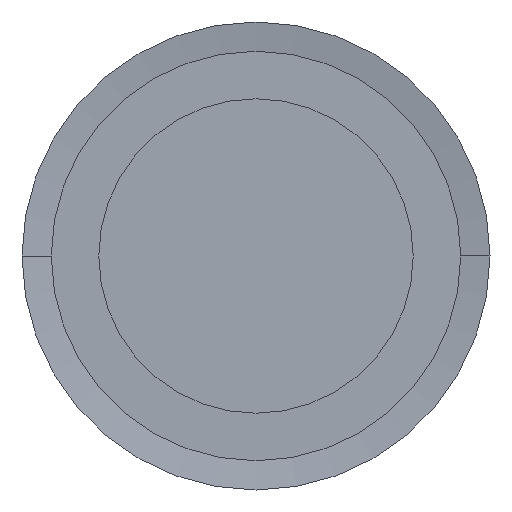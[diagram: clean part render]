
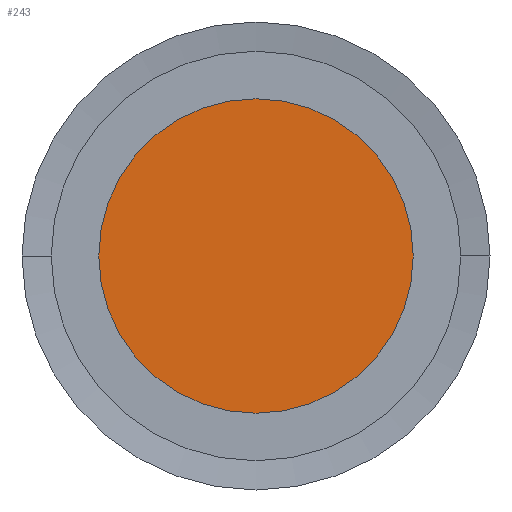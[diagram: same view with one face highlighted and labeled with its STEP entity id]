
A CAD part, left-side view. The second image highlights one B-rep face of the part: STEP entity #243.
In plain terms, the highlighted planar face has unit normal (-1, 0, 0).
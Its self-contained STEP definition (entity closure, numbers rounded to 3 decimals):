
#243 = ADVANCED_FACE( '', ( #586 ), #587, .T. );
#586 = FACE_OUTER_BOUND( '', #929, .T. );
#587 = PLANE( '', #930 );
#929 = EDGE_LOOP( '', ( #2389, #2390 ) );
#930 = AXIS2_PLACEMENT_3D( '', #2391, #2392, #2393 );
#2389 = ORIENTED_EDGE( '', *, *, #2397, .T. );
#2390 = ORIENTED_EDGE( '', *, *, #2871, .T. );
#2391 = CARTESIAN_POINT( '', ( 0., 5.375, 0. ) );
#2392 = DIRECTION( '', ( -1., 0., 0. ) );
#2393 = DIRECTION( '', ( 0., 1., 0. ) );
#2397 = EDGE_CURVE( '', #2873, #2877, #2879, .T. );
#2871 = EDGE_CURVE( '', #2877, #2873, #3665, .T. );
#2873 = VERTEX_POINT( '', #3667 );
#2877 = VERTEX_POINT( '', #3672 );
#2879 = CIRCLE( '', #3675, 10.75 );
#3665 = CIRCLE( '', #4729, 10.75 );
#3667 = CARTESIAN_POINT( '', ( 0., 10.75, 0. ) );
#3672 = CARTESIAN_POINT( '', ( 0., -10.75, 0. ) );
#3675 = AXIS2_PLACEMENT_3D( '', #4735, #4736, #4737 );
#4729 = AXIS2_PLACEMENT_3D( '', #5621, #5622, #5623 );
#4735 = CARTESIAN_POINT( '', ( 0., 0., 0. ) );
#4736 = DIRECTION( '', ( -1., 0., 0. ) );
#4737 = DIRECTION( '', ( 0., 1., 0. ) );
#5621 = CARTESIAN_POINT( '', ( 0., 0., 0. ) );
#5622 = DIRECTION( '', ( -1., 0., 0. ) );
#5623 = DIRECTION( '', ( 0., 1., 0. ) );
